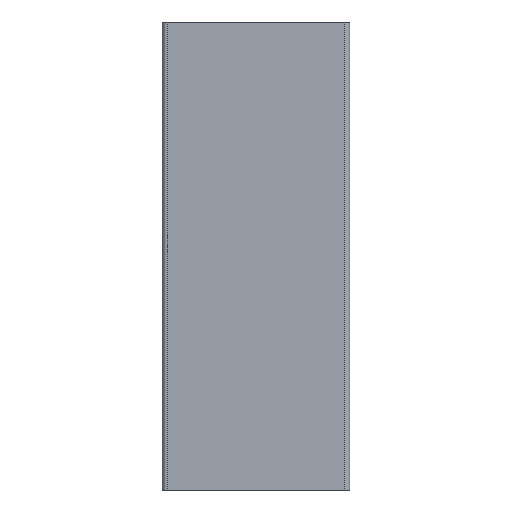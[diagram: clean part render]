
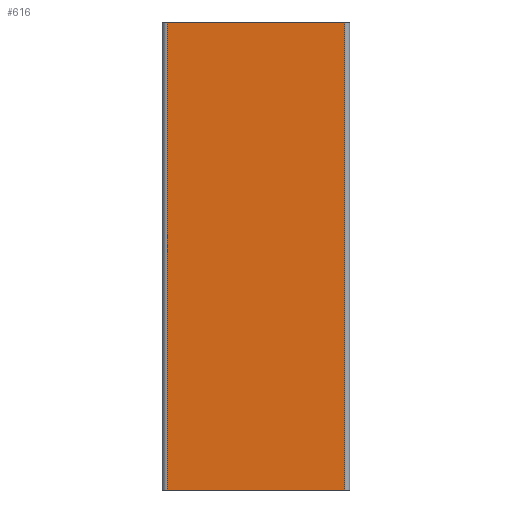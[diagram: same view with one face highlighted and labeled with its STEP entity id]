
A CAD part, left-side view. The second image highlights one B-rep face of the part: STEP entity #616.
In plain terms, the highlighted planar face has unit normal (-1, 0, 0).
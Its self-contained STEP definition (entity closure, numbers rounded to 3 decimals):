
#15 = CARTESIAN_POINT ( 'NONE',  ( -20., -19., 0. ) ) ;
#99 = FACE_OUTER_BOUND ( 'NONE', #384, .T. ) ;
#146 = CARTESIAN_POINT ( 'NONE',  ( -20., -19., -100. ) ) ;
#186 = LINE ( 'NONE', #146, #1004 ) ;
#187 = VECTOR ( 'NONE', #844, 1000. ) ;
#192 = CARTESIAN_POINT ( 'NONE',  ( -20., 19., -100. ) ) ;
#258 = CARTESIAN_POINT ( 'NONE',  ( -20., 0., -100. ) ) ;
#290 = CARTESIAN_POINT ( 'NONE',  ( -20., 19., 0. ) ) ;
#381 = CARTESIAN_POINT ( 'NONE',  ( -20., 0., -100. ) ) ;
#384 = EDGE_LOOP ( 'NONE', ( #546, #2065, #436, #1717 ) ) ;
#392 = DIRECTION ( 'NONE',  ( 0., 1., 0. ) ) ;
#436 = ORIENTED_EDGE ( 'NONE', *, *, #1392, .F. ) ;
#468 = AXIS2_PLACEMENT_3D ( 'NONE', #258, #1051, #892 ) ;
#546 = ORIENTED_EDGE ( 'NONE', *, *, #1052, .T. ) ;
#588 = CARTESIAN_POINT ( 'NONE',  ( -20., 19., -100. ) ) ;
#616 = ADVANCED_FACE ( 'NONE', ( #99 ), #1883, .F. ) ;
#844 = DIRECTION ( 'NONE',  ( 0., 0., 1. ) ) ;
#892 = DIRECTION ( 'NONE',  ( 0., 0., -1. ) ) ;
#1004 = VECTOR ( 'NONE', #1121, 1000. ) ;
#1046 = DIRECTION ( 'NONE',  ( 0., 1., 0. ) ) ;
#1051 = DIRECTION ( 'NONE',  ( 1., 0., 0. ) ) ;
#1052 = EDGE_CURVE ( 'NONE', #1499, #1942, #1394, .T. ) ;
#1121 = DIRECTION ( 'NONE',  ( 0., 0., 1. ) ) ;
#1359 = EDGE_CURVE ( 'NONE', #1854, #1942, #1784, .T. ) ;
#1392 = EDGE_CURVE ( 'NONE', #1459, #1854, #2006, .T. ) ;
#1394 = LINE ( 'NONE', #1553, #1628 ) ;
#1459 = VERTEX_POINT ( 'NONE', #1598 ) ;
#1499 = VERTEX_POINT ( 'NONE', #15 ) ;
#1532 = EDGE_CURVE ( 'NONE', #1459, #1499, #186, .T. ) ;
#1553 = CARTESIAN_POINT ( 'NONE',  ( -20., 0., 0. ) ) ;
#1580 = VECTOR ( 'NONE', #392, 1000. ) ;
#1598 = CARTESIAN_POINT ( 'NONE',  ( -20., -19., -100. ) ) ;
#1628 = VECTOR ( 'NONE', #1046, 1000. ) ;
#1717 = ORIENTED_EDGE ( 'NONE', *, *, #1532, .T. ) ;
#1784 = LINE ( 'NONE', #192, #187 ) ;
#1854 = VERTEX_POINT ( 'NONE', #588 ) ;
#1883 = PLANE ( 'NONE',  #468 ) ;
#1942 = VERTEX_POINT ( 'NONE', #290 ) ;
#2006 = LINE ( 'NONE', #381, #1580 ) ;
#2065 = ORIENTED_EDGE ( 'NONE', *, *, #1359, .F. ) ;
